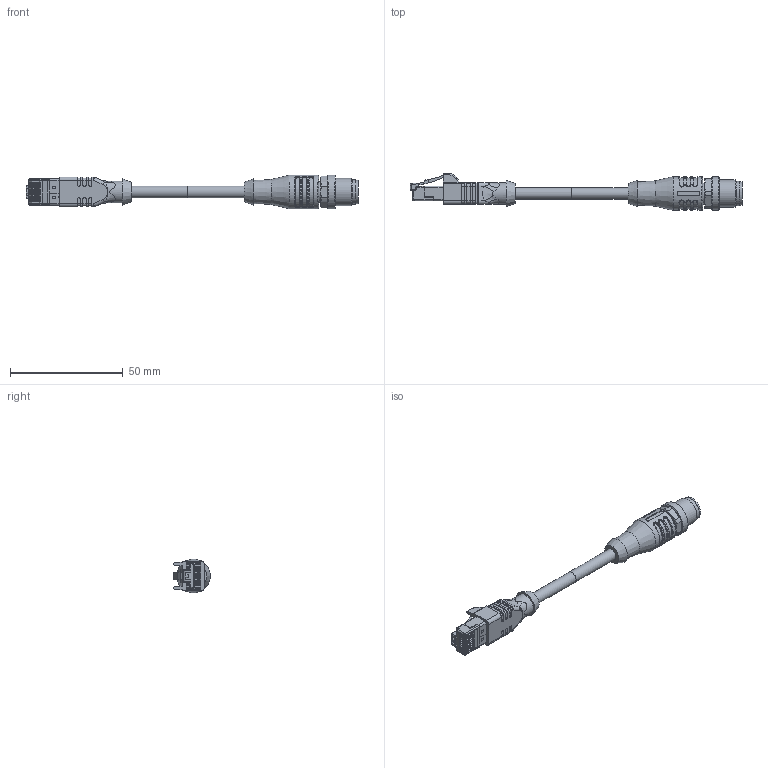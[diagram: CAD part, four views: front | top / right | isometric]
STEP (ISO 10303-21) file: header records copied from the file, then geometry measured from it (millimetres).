
FILE_DESCRIPTION(/* description */ (''),/* implementation_level */ '2;1');
FILE_NAME(/* name */ 'C:\#Vault-WorkDir\Konstruktions-Dokumente\Projekte\VISOR\Zubehör\153-13563_CI L4MG_RJ45G-GS-xm-PUR.stp',/* time_stamp */ '2019-03-21T10:23:12+01:00',/* author */ ('SensoPart'),/* organization */ ('SensoPart'),/* preprocessor_version */ 'ST-DEVELOPER v17',/* originating_system */ 'Autodesk Inventor 2018',/* authorisation */ '');
FILE_SCHEMA (('AUTOMOTIVE_DESIGN { 1 0 10303 214 3 1 1 }'));
Length unit declared in the file: millimetre
Products named in the file (1): GH-ENG-0028357
Bounding box: 147.2 x 16.34 x 15 mm (x, y, z)
Volume: 11495.8 mm3; surface area: 6248.1 mm2
Topology: 2 solids, 2 shells, 888 faces, 2323 edges, 1456 vertices
Faces by surface type: plane 386, cylinder 305, bspline 101, torus 71, cone 13, sphere 12
Full cylindrical faces by diameter (mm): 1 x4, 5.2 x2, 8.3 x1, 9.3 x1, 10.5 x1, 10.8 x1, 12 x1, 15 x2
Entity records: 31584 total; most frequent: CARTESIAN_POINT 9862, ORIENTED_EDGE 4618, DIRECTION 4540, EDGE_CURVE 2309, AXIS2_PLACEMENT_3D 1605, VERTEX_POINT 1456, LINE 1330, VECTOR 1330
